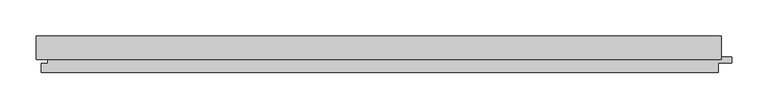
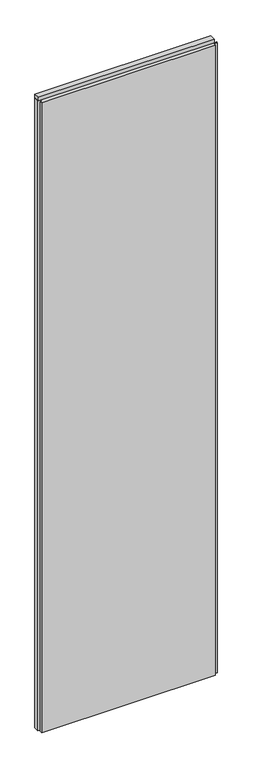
"""IFC4 building model written with IfcOpenShell, lengths in millimetres: plate geometry, Trimo_Qbiss Screen_Normal Panel-VERTICAL : HR - FB-F."""

from ifc_helpers import new_model, si_unit, frame, origin, place, context, project, spatial, polyline, outline, extrude, source, transform, mapped, element, save


def plate_5f1bff59(model_context):
    return source(origin(), model_context, "Body", "SweptSolid", [
        extrude(outline(polyline([(-472.2, 93.9), (-472.2, 126.0), (472.2, 126.0), (472.2, 93.9), (-472.2, 93.9)])), frame((0.0, 0.0, 3590.5), z_axis=(0.0, 0.0, 1.0), x_axis=(1.0, 0.0, 0.0)), (0.0, 0.0, 1.0), 19.0),
        extrude(outline(polyline([(468.2, 97.0), (486.7, 97.0), (486.7, 89.0), (468.2, 89.0), (468.2, 76.0), (-465.2, 76.0), (-465.2, 88.0), (-456.7, 88.0), (-456.7, 98.0), (-472.2, 98.0), (-472.2, 126.0), (468.2, 126.0), (468.2, 97.0)])), frame((0.0, 0.0, 12.5), z_axis=(0.0, 0.0, 1.0), x_axis=(1.0, 0.0, 0.0)), (0.0, 0.0, 1.0), 3575.0),
    ])


if __name__ == "__main__":
    model = new_model("IFC4")
    model_context = context("Model", 3, world=origin())
    ifc_project = project(units=[si_unit("LENGTHUNIT", "METRE", prefix="MILLI")], contexts=[model_context])
    site = spatial("IfcSite", under=ifc_project)
    building = spatial("IfcBuilding", under=site)
    placement = place(None, origin())
    plate_shape = plate_5f1bff59(model_context)
    element("IfcPlate", 1, ObjectType="Trimo_Qbiss Screen_Normal Panel-VERTICAL : HR - FB-F", at=placement, inside=building, context=model_context, shape_type="MappedRepresentation", body=[
        mapped(plate_shape, transform((0.0, 0.0, 0.0), x_axis=(1.0, 0.0, 0.0), y_axis=(0.0, 1.0, 0.0), z_axis=(0.0, 0.0, 1.0))),
    ])
    save(model, "model.ifc")
